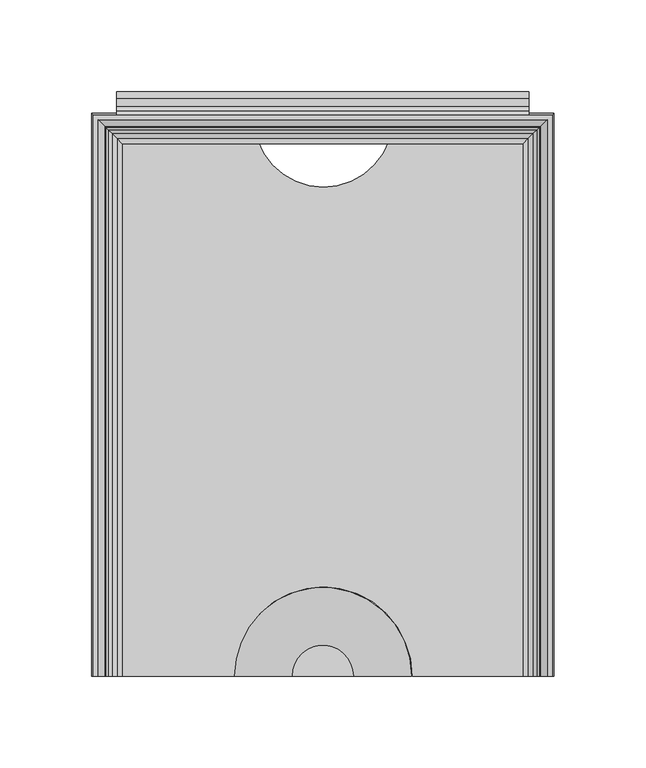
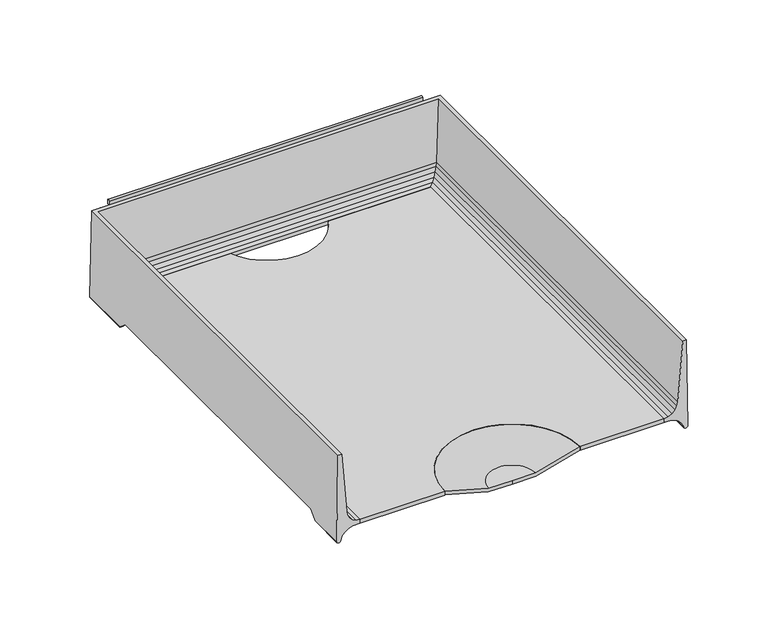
"""IFC4 building model written with IfcOpenShell, lengths in millimetres: furniture geometry."""

from ifc_helpers import new_model, si_unit, point, frame, frame_2d, origin, place, context, project, spatial, polyline, circle_curve, ellipse_curve, trimmed, segment, composite_curve, outline, extrude, source, transform, mapped, element, save
from ifc_brep_helpers import plane_surface, cylinder_surface, revolved_surface, advanced_brep


def furniture_3ab3b130(model_context):
    return source(origin(), model_context, "Body", "SolidModel", [
        advanced_brep(
        [(126.0820502, -154.0206082, 864.8757489), (125.1325529, -154.0206082, 930.2751914), (122.4547921, -154.0206082, 930.2751914), (118.8379747, -154.0206082, 885.4881003), (118.4123648, -154.0206082, 882.7546052), (117.0774354, -154.0206082, 880.0535664), (114.9656457, -154.0206082, 877.9046015), (112.28832, -154.0206082, 876.5227261), (109.3133381, -154.0206082, 876.0462052), (109.3133381, -154.0206082, 873.2240971), (114.5666739, -154.0206082, 873.0310987), (117.605351, -154.0206082, 871.9747218), (120.2416, -154.0206082, 870.1308822), (122.2762142, -154.0206082, 867.6389079), (123.1625518, -154.0206082, 864.5956655), (126.0820502, -127.6379698, 864.8757489), (126.0026181, -121.5231874, 870.346872), (126.0026181, 109.0611937, 870.346872), (126.0820502, 115.1759816, 864.8757489), (126.0820502, 153.036442, 864.8757489), (125.1325529, 152.0869447, 930.2751914), (-125.1325529, 152.0869447, 930.2751914), (-125.1325529, -154.0206082, 930.2751914), (-122.4547921, -154.0206082, 930.2751914), (-122.4547921, 149.4091839, 930.2751914), (122.4547921, 149.4091839, 930.2751914), (118.8379747, 145.7923665, 885.4881003), (118.4123648, 145.3667566, 882.7546052), (117.0774354, 144.0318272, 880.0535664), (114.9656457, 141.9200375, 877.9046015), (112.28832, 139.2427118, 876.5227261), (109.3133381, 136.2677299, 876.0462052), (109.3133381, 136.2677299, 873.2240971), (114.5666739, 141.5210656, 873.0310987), (117.605351, 144.5597428, 871.9747218), (120.2416, 147.1959918, 870.1308822), (120.2416, 109.3025941, 870.1308822), (119.9327864, 109.0611937, 870.346872), (119.9327864, -121.5231874, 870.346872), (120.2416, -121.7645876, 870.1308822), (122.2762142, -124.5497344, 867.6389079), (122.2762142, 149.230606, 867.6389079), (122.2762142, 112.0877435, 867.6389079), (123.1625518, -127.9510041, 864.5956655), (123.1625518, 150.1169436, 864.5956655), (123.1625518, 115.4890162, 864.5956655), (-126.0820502, 153.036442, 864.8757489), (-118.8379747, 145.7923665, 885.4881003), (-118.4123648, 145.3667566, 882.7546052), (-117.0774354, 144.0318272, 880.0535664), (-114.9656457, 141.9200375, 877.9046015), (-112.28832, 139.2427118, 876.5227261), (-109.3133381, 136.2677299, 876.0462052), (-109.3133381, 136.2677299, 873.2240971), (-114.5666739, 141.5210656, 873.0310987), (-117.605351, 144.5597428, 871.9747218), (-120.2416, 147.1959918, 870.1308822), (-122.2762142, 149.230606, 867.6389079), (-123.1625518, 150.1169436, 864.5956655), (-126.0820502, -154.0206082, 864.8757489), (-123.1625518, -154.0206082, 864.5956655), (-122.2762142, -154.0206082, 867.6389079), (-120.2416, -154.0206082, 870.1308822), (-117.605351, -154.0206082, 871.9747218), (-114.5666739, -154.0206082, 873.0310987), (-109.3133381, -154.0206082, 873.2240971), (-109.3133381, -154.0206082, 876.0462052), (-112.28832, -154.0206082, 876.5227261), (-114.9656457, -154.0206082, 877.9046015), (-117.0774354, -154.0206082, 880.0535664), (-118.4123648, -154.0206082, 882.7546052), (-118.8379747, -154.0206082, 885.4881003), (-126.0820502, 115.1759816, 864.8757489), (-126.0026181, 109.0611937, 870.346872), (-126.0026181, -121.5231874, 870.346872), (-126.0820502, -127.6379698, 864.8757489), (-120.2416, -121.7645876, 870.1308822), (-119.9327864, -121.5231874, 870.346872), (-119.9327864, 109.0611937, 870.346872), (-120.2416, 109.3025941, 870.1308822), (-122.2762142, 112.0877435, 867.6389079), (-122.2762142, -124.5497344, 867.6389079), (-123.1625518, 115.4890162, 864.5956655), (-123.1625518, -127.9510041, 864.5956655)],
        [
            (0, 1),
            (1, 2),
            (2, 3),
            (3, 4),
            (4, 5),
            (5, 6),
            (6, 7),
            (7, 8),
            (8, 9),
            (9, 10),
            (10, 11),
            (11, 12),
            (12, 13),
            (13, 14),
            (14, 0, circle_curve(frame((124.5859452, -154.0206082, 865.1146685), z_axis=(0.0, -1.0, 0.0), x_axis=(-1.0, 0.0, 0.0)), 1.515062)),
            (0, 15),
            (15, 16),
            (16, 17),
            (17, 18),
            (18, 19),
            (19, 20),
            (20, 1),
            (20, 21),
            (21, 22),
            (22, 23),
            (23, 24),
            (24, 25),
            (25, 2),
            (25, 26),
            (26, 3),
            (26, 27),
            (27, 4),
            (27, 28),
            (28, 5),
            (28, 29),
            (29, 6),
            (29, 30),
            (30, 7),
            (30, 31),
            (31, 8),
            (31, 32),
            (32, 9),
            (32, 33),
            (33, 10),
            (33, 34),
            (34, 11),
            (34, 35),
            (35, 36),
            (36, 37),
            (37, 38),
            (38, 39),
            (39, 12),
            (39, 40),
            (40, 13),
            (35, 41),
            (41, 42),
            (42, 36),
            (40, 43),
            (43, 14),
            (41, 44),
            (44, 45),
            (45, 42),
            (43, 15, ellipse_curve(frame((124.5859452, -127.3709422, 865.1146685), z_axis=(0.0, -0.6667949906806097, 0.7452411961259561), x_axis=(0.0, -0.7452411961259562, -0.6667949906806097)), 2.2721556, 1.515062)),
            (44, 19, ellipse_curve(frame((124.5859452, 151.540337, 865.1146685), z_axis=(0.7071067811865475, -0.7071067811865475, 0.0), x_axis=(-0.7071067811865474, -0.7071067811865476, 0.0)), 2.1426212, 1.515062)),
            (18, 45, ellipse_curve(frame((124.5859452, 114.9089538, 865.1146685), z_axis=(0.0, 0.6667946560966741, 0.7452414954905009), x_axis=(0.0, -0.7452414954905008, 0.6667946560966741)), 2.2721567, 1.515062)),
            (19, 46),
            (46, 21),
            (24, 47),
            (47, 26),
            (47, 48),
            (48, 27),
            (48, 49),
            (49, 28),
            (49, 50),
            (50, 29),
            (50, 51),
            (51, 30),
            (51, 52),
            (52, 31),
            (52, 53),
            (53, 32),
            (53, 54),
            (54, 33),
            (54, 55),
            (55, 34),
            (55, 56),
            (56, 35),
            (56, 57),
            (57, 41),
            (57, 58),
            (58, 44),
            (58, 46, ellipse_curve(frame((-124.5859452, 151.540337, 865.1146685), z_axis=(0.7071067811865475, 0.7071067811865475, 0.0), x_axis=(0.7071067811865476, -0.7071067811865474, 0.0)), 2.1426212, 1.515062)),
            (22, 59),
            (59, 60, circle_curve(frame((-124.5859452, -154.0206082, 865.1146685), z_axis=(0.0, -1.0, 0.0), x_axis=(1.0, 0.0, 0.0)), 1.515062)),
            (60, 61),
            (61, 62),
            (62, 63),
            (63, 64),
            (64, 65),
            (65, 66),
            (66, 67),
            (67, 68),
            (68, 69),
            (69, 70),
            (70, 71),
            (71, 23),
            (46, 72),
            (72, 73),
            (73, 74),
            (74, 75),
            (75, 59),
            (71, 47),
            (70, 48),
            (69, 49),
            (68, 50),
            (67, 51),
            (66, 52),
            (65, 53),
            (64, 54),
            (63, 55),
            (62, 76),
            (76, 77),
            (77, 78),
            (78, 79),
            (79, 56),
            (79, 80),
            (80, 57),
            (61, 81),
            (81, 76),
            (80, 82),
            (82, 58),
            (60, 83),
            (83, 81),
            (82, 72, ellipse_curve(frame((-124.5859452, 114.9089538, 865.1146685), z_axis=(0.0, 0.6667946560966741, 0.7452414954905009), x_axis=(0.0, 0.7452414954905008, -0.6667946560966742)), 2.2721567, 1.515062)),
            (75, 83, ellipse_curve(frame((-124.5859452, -127.3709422, 865.1146685), z_axis=(0.0, -0.6667949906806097, 0.7452411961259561), x_axis=(0.0, 0.745241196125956, 0.6667949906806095)), 2.2721556, 1.515062)),
            (38, 16),
            (74, 77),
            (37, 17),
            (73, 78),
        ],
        [
            plane_surface(frame((127.0, -154.0206082, 863.6), z_axis=(0.0, -1.0, 0.0), x_axis=(0.0, 0.0, 1.0))),
            plane_surface(frame((126.0820502, -154.0206082, 864.8757489), z_axis=(0.9998946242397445, 0.0, 0.014516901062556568), x_axis=(0.0, 1.0, 0.0))),
            plane_surface(frame((125.1325529, -154.0206082, 930.2751914), z_axis=(0.0, 0.0, 1.0), x_axis=(0.0, 1.0, 0.0))),
            plane_surface(frame((122.4547921, -154.0206082, 930.2751914), z_axis=(-0.9967551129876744, 0.0, 0.08049375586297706), x_axis=(0.0, 1.0, 0.0))),
            plane_surface(frame((118.8379747, -154.0206082, 885.4881003), z_axis=(-0.9880945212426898, 0.0, 0.15384803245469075), x_axis=(0.0, 1.0, 0.0))),
            plane_surface(frame((118.4123648, -154.0206082, 882.7546052), z_axis=(-0.8964873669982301, 0.0, 0.44306929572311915), x_axis=(0.0, 1.0, 0.0))),
            plane_surface(frame((117.0774354, -154.0206082, 880.0535664), z_axis=(-0.7132491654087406, 0.0, 0.7009105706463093), x_axis=(0.0, 1.0, 0.0))),
            plane_surface(frame((114.9656457, -154.0206082, 877.9046015), z_axis=(-0.45865074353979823, 0.0, 0.8886166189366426), x_axis=(0.0, 1.0, 0.0))),
            plane_surface(frame((112.28832, -154.0206082, 876.5227261), z_axis=(-0.15816001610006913, 0.0, 0.987413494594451), x_axis=(0.0, 1.0, 0.0))),
            plane_surface(frame((109.3133381, -154.0206082, 876.0462052), z_axis=(-1.0, 0.0, 0.0), x_axis=(0.0, 1.0, 0.0))),
            plane_surface(frame((109.3133381, -154.0206082, 873.2240971), z_axis=(-0.036713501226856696, 0.0, -0.9993258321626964), x_axis=(0.0, 1.0, 0.0))),
            plane_surface(frame((114.5666739, -154.0206082, 873.0310987), z_axis=(-0.3283669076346, 0.0, -0.9445502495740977), x_axis=(0.0, 1.0, 0.0))),
            plane_surface(frame((117.605351, -154.0206082, 871.9747218), z_axis=(-0.5731421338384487, 0.0, -0.819455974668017), x_axis=(0.0, 1.0, 0.0))),
            plane_surface(frame((120.2416, -154.0206082, 870.1308822), z_axis=(-0.77460799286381, 0.0, -0.6324416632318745), x_axis=(0.0, 1.0, 0.0))),
            plane_surface(frame((122.2762142, -154.0206082, 867.6389079), z_axis=(-0.9601080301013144, 0.0, -0.2796293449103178), x_axis=(0.0, 1.0, 0.0))),
            cylinder_surface(frame((124.5859452, -154.0206082, 865.1146685), z_axis=(0.0, -1.0, 0.0), x_axis=(-1.0, 0.0, 0.0)), 1.515062),
            plane_surface(frame((126.0820502, 153.036442, 864.8757489), z_axis=(0.0, 0.9998946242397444, 0.014516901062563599), x_axis=(-1.0, 0.0, 0.0))),
            plane_surface(frame((122.4547921, 149.4091839, 930.2751914), z_axis=(0.0, -0.9967551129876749, 0.08049375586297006), x_axis=(-1.0, 0.0, 0.0))),
            plane_surface(frame((118.8379747, 145.7923665, 885.4881003), z_axis=(0.0, -0.9880945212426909, 0.15384803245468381), x_axis=(-1.0, 0.0, 0.0))),
            plane_surface(frame((118.4123648, 145.3667566, 882.7546052), z_axis=(0.0, -0.8964873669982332, 0.4430692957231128), x_axis=(-1.0, 0.0, 0.0))),
            plane_surface(frame((117.0774354, 144.0318272, 880.0535664), z_axis=(0.0, -0.7132491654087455, 0.7009105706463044), x_axis=(-1.0, 0.0, 0.0))),
            plane_surface(frame((114.9656457, 141.9200375, 877.9046015), z_axis=(0.0, -0.4586507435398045, 0.8886166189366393), x_axis=(-1.0, 0.0, 0.0))),
            plane_surface(frame((112.28832, 139.2427118, 876.5227261), z_axis=(0.0, -0.15816001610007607, 0.9874134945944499), x_axis=(-1.0, 0.0, 0.0))),
            plane_surface(frame((109.3133381, 136.2677299, 876.0462052), z_axis=(0.0, -1.0, 0.0), x_axis=(-1.0, 0.0, 0.0))),
            plane_surface(frame((109.3133381, 136.2677299, 873.2240971), z_axis=(0.0, -0.03671350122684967, -0.9993258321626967), x_axis=(-1.0, 0.0, 0.0))),
            plane_surface(frame((114.5666739, 141.5210656, 873.0310987), z_axis=(0.0, -0.32836690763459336, -0.9445502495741), x_axis=(-1.0, 0.0, 0.0))),
            plane_surface(frame((117.605351, 144.5597428, 871.9747218), z_axis=(0.0, -0.5731421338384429, -0.819455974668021), x_axis=(-1.0, 0.0, 0.0))),
            plane_surface(frame((120.2416, 147.1959918, 870.1308822), z_axis=(0.0, -0.7746079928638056, -0.6324416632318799), x_axis=(-1.0, 0.0, 0.0))),
            plane_surface(frame((122.2762142, 149.230606, 867.6389079), z_axis=(0.0, -0.9601080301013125, -0.27962934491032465), x_axis=(-1.0, 0.0, 0.0))),
            cylinder_surface(frame((127.0, 151.540337, 865.1146685), z_axis=(1.0, 0.0, 0.0), x_axis=(0.0, -1.0, 0.0)), 1.515062),
            plane_surface(frame((-127.0, -154.0206082, 863.6), z_axis=(0.0, -1.0, 0.0), x_axis=(0.0, 0.0, 1.0))),
            plane_surface(frame((-126.0820502, 153.036442, 864.8757489), z_axis=(-0.9998946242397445, 0.0, 0.014516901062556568), x_axis=(0.0, -1.0, 0.0))),
            plane_surface(frame((-122.4547921, 149.4091839, 930.2751914), z_axis=(0.9967551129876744, 0.0, 0.08049375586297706), x_axis=(0.0, -1.0, 0.0))),
            plane_surface(frame((-118.8379747, 145.7923665, 885.4881003), z_axis=(0.9880945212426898, 0.0, 0.15384803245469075), x_axis=(0.0, -1.0, 0.0))),
            plane_surface(frame((-118.4123648, 145.3667566, 882.7546052), z_axis=(0.8964873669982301, 0.0, 0.44306929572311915), x_axis=(0.0, -1.0, 0.0))),
            plane_surface(frame((-117.0774354, 144.0318272, 880.0535664), z_axis=(0.7132491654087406, 0.0, 0.7009105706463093), x_axis=(0.0, -1.0, 0.0))),
            plane_surface(frame((-114.9656457, 141.9200375, 877.9046015), z_axis=(0.45865074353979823, 0.0, 0.8886166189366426), x_axis=(0.0, -1.0, 0.0))),
            plane_surface(frame((-112.28832, 139.2427118, 876.5227261), z_axis=(0.15816001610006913, 0.0, 0.987413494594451), x_axis=(0.0, -1.0, 0.0))),
            plane_surface(frame((-109.3133381, 136.2677299, 876.0462052), z_axis=(1.0, 0.0, 0.0), x_axis=(0.0, -1.0, 0.0))),
            plane_surface(frame((-109.3133381, 136.2677299, 873.2240971), z_axis=(0.036713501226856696, 0.0, -0.9993258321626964), x_axis=(0.0, -1.0, 0.0))),
            plane_surface(frame((-114.5666739, 141.5210656, 873.0310987), z_axis=(0.3283669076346, 0.0, -0.9445502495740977), x_axis=(0.0, -1.0, 0.0))),
            plane_surface(frame((-117.605351, 144.5597428, 871.9747218), z_axis=(0.5731421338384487, 0.0, -0.819455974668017), x_axis=(0.0, -1.0, 0.0))),
            plane_surface(frame((-120.2416, 147.1959918, 870.1308822), z_axis=(0.77460799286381, 0.0, -0.6324416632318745), x_axis=(0.0, -1.0, 0.0))),
            plane_surface(frame((-122.2762142, 149.230606, 867.6389079), z_axis=(0.9601080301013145, 0.0, -0.2796293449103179), x_axis=(0.0, -1.0, 0.0))),
            cylinder_surface(frame((-124.5859452, 153.9543918, 865.1146685), z_axis=(0.0, 1.0, 0.0), x_axis=(1.0, 0.0, 0.0)), 1.515062),
            plane_surface(frame((-127.0, -130.1695728, 862.6106296), z_axis=(0.0, 0.6667949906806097, -0.7452411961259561), x_axis=(1.0, 0.0, 0.0))),
            plane_surface(frame((-127.0, -121.5231874, 870.346872), z_axis=(0.0, 0.0, -1.0), x_axis=(1.0, 0.0, 0.0))),
            plane_surface(frame((-127.0, 109.0611937, 870.346872), z_axis=(0.0, -0.6667946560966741, -0.7452414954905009), x_axis=(1.0, 0.0, 0.0))),
        ],
        [
            (0, [[1, 2, 3, 4, 5, 6, 7, 8, 9, 10, 11, 12, 13, 14, 15]]),
            (1, [[-1, 16, 17, 18, 19, 20, 21, 22]]),
            (2, [[-2, -22, 23, 24, 25, 26, 27, 28]]),
            (3, [[-3, -28, 29, 30]]),
            (4, [[-4, -30, 31, 32]]),
            (5, [[-5, -32, 33, 34]]),
            (6, [[-6, -34, 35, 36]]),
            (7, [[-7, -36, 37, 38]]),
            (8, [[-8, -38, 39, 40]]),
            (9, [[-9, -40, 41, 42]]),
            (10, [[-10, -42, 43, 44]]),
            (11, [[-11, -44, 45, 46]]),
            (12, [[-12, -46, 47, 48, 49, 50, 51, 52]]),
            (13, [[-13, -52, 53, 54]]),
            (13, [[55, 56, 57, -48]]),
            (14, [[-14, -54, 58, 59]]),
            (14, [[60, 61, 62, -56]]),
            (15, [[-15, -59, 63, -16]]),
            (15, [[64, -20, 65, -61]]),
            (16, [[-21, 66, 67, -23]]),
            (17, [[-27, 68, 69, -29]]),
            (18, [[-31, -69, 70, 71]]),
            (19, [[-33, -71, 72, 73]]),
            (20, [[-35, -73, 74, 75]]),
            (21, [[-37, -75, 76, 77]]),
            (22, [[-39, -77, 78, 79]]),
            (23, [[-41, -79, 80, 81]]),
            (24, [[-43, -81, 82, 83]]),
            (25, [[-45, -83, 84, 85]]),
            (26, [[-47, -85, 86, 87]]),
            (27, [[-55, -87, 88, 89]]),
            (28, [[-60, -89, 90, 91]]),
            (29, [[-64, -91, 92, -66]]),
            (30, [[-25, 93, 94, 95, 96, 97, 98, 99, 100, 101, 102, 103, 104, 105, 106]]),
            (31, [[-24, -67, 107, 108, 109, 110, 111, -93]]),
            (32, [[-26, -106, 112, -68]]),
            (33, [[-70, -112, -105, 113]]),
            (34, [[-72, -113, -104, 114]]),
            (35, [[-74, -114, -103, 115]]),
            (36, [[-76, -115, -102, 116]]),
            (37, [[-78, -116, -101, 117]]),
            (38, [[-80, -117, -100, 118]]),
            (39, [[-82, -118, -99, 119]]),
            (40, [[-84, -119, -98, 120]]),
            (41, [[-86, -120, -97, 121, 122, 123, 124, 125]]),
            (42, [[-88, -125, 126, 127]]),
            (42, [[-96, 128, 129, -121]]),
            (43, [[-90, -127, 130, 131]]),
            (43, [[-95, 132, 133, -128]]),
            (44, [[-92, -131, 134, -107]]),
            (44, [[-94, -111, 135, -132]]),
            (45, [[136, -17, -63, -58, -53, -51]]),
            (45, [[137, -122, -129, -133, -135, -110]]),
            (46, [[-136, -50, 138, -18]]),
            (46, [[-137, -109, 139, -123]]),
            (47, [[-138, -49, -57, -62, -65, -19]]),
            (47, [[-139, -108, -134, -130, -126, -124]]),
        ],
    ),
        extrude(outline(composite_curve([segment(polyline([(-109.3647805, 138.2769393), (-35.6610422, 138.2769393)]), True, "CONTINUOUS"), segment(trimmed(circle_curve(frame_2d((0.3369133, 150.6584166)), 38.0677525), [point((-35.6610422, 138.2769393))], [point((36.3348688, 138.2769393))], True, "CARTESIAN"), True, "CONTINUOUS"), segment(polyline([(36.3348688, 138.2769393), (109.6504969, 138.2769393), (109.6504969, -153.9875), (48.9112184, -153.9875)]), True, "CONTINUOUS"), segment(trimmed(circle_curve(frame_2d((0.2842795, -153.9323196)), 48.6269702), [point((48.9112184, -153.9875))], [point((-48.3426595, -153.9875))], True, "CARTESIAN"), True, "CONTINUOUS"), segment(polyline([(-48.3426595, -153.9875), (-109.3647805, -153.9875), (-109.3647805, 138.2769393)]), True, "CONTINUOUS")], self_intersect=False)), frame((0.0, 0.0, 873.2064677), z_axis=(0.0, 0.0, 1.0), x_axis=(1.0, 0.0, 0.0)), (0.0, 0.0, 1.0), 2.8395461),
        extrude(outline(composite_curve([segment(trimmed(circle_curve(frame_2d((162.7186949, 914.4457343)), 1.9049988), [point((164.6236937, 914.4457343))], [point((160.8136962, 914.4457343))], False, "CARTESIAN"), True, "CONTINUOUS"), segment(polyline([(160.8136962, 914.4457343), (160.8136962, 917.8747311), (160.0516969, 918.6367303), (156.4380325, 918.6367303), (152.1427596, 916.2893331), (152.1427596, 924.7941285), (156.4380325, 922.4467312), (160.8136928, 922.4467312)]), True, "CONTINUOUS"), segment(trimmed(circle_curve(frame_2d((160.8136928, 918.6367303)), 3.8100009), [point((160.8136928, 922.4467312))], [point((164.6236937, 918.6367303))], False, "CARTESIAN"), True, "CONTINUOUS"), segment(polyline([(164.6236937, 918.6367303), (164.6236937, 914.4457343)]), True, "CONTINUOUS")], self_intersect=False)), frame((-112.5397809, 0.0, 0.0), z_axis=(1.0, 0.0, 0.0), x_axis=(0.0, 1.0, 0.0)), (0.0, 0.0, 1.0), 225.0795617),
        advanced_brep(
        [(-16.8929028, -153.9875, 867.171875), (-48.4614622, -153.9875, 876.0795432), (-48.4614622, -153.9875, 873.4880018), (-16.9249292, -153.9875, 864.5893704), (0.0, -153.9875, 864.5893704), (0.0, -153.9875, 867.171875), (16.8929028, -153.9875, 867.171875), (16.9249292, -153.9875, 864.5893704), (48.4614622, -153.9875, 873.4880018), (48.4614622, -153.9875, 876.0795432)],
        [
            (0, 1),
            (1, 2),
            (2, 3),
            (3, 4),
            (4, 5),
            (5, 0),
            (6, 5),
            (4, 7),
            (7, 8),
            (8, 9),
            (9, 6),
            (9, 1, circle_curve(frame((0.0, -153.9875, 876.0795432), z_axis=(0.0, 0.0, 1.0), x_axis=(-1.0, 0.0, 0.0)), 48.4614622)),
            (0, 6, circle_curve(frame((0.0, -153.9875, 867.171875), z_axis=(0.0, 0.0, -1.0), x_axis=(-1.0, 0.0, 0.0)), 16.8929028)),
            (8, 2, circle_curve(frame((0.0, -153.9875, 873.4880018), z_axis=(0.0, 0.0, 1.0), x_axis=(-1.0, 0.0, 0.0)), 48.4614622)),
            (7, 3, circle_curve(frame((0.0, -153.9875, 864.5893704), z_axis=(0.0, 0.0, 1.0), x_axis=(-1.0, 0.0, 0.0)), 16.9249292)),
        ],
        [
            plane_surface(frame((0.0, -153.9875, 863.6), z_axis=(0.0, -1.0, 0.0), x_axis=(-1.0, 0.0, 0.0))),
            plane_surface(frame((0.0, -153.9875, 863.6), z_axis=(0.0, -1.0, 0.0), x_axis=(1.0, 0.0, 0.0))),
            revolved_surface(polyline([(-48.4614622, -153.9875, 876.0795432), (-16.8929028, -153.9875, 867.171875)]), (0.0, -153.9875, 863.6), (0.0, 0.0, 1.0)),
            cylinder_surface(frame((0.0, -153.9875, 863.6), z_axis=(0.0, 0.0, 1.0), x_axis=(-1.0, 0.0, 0.0)), 48.4614622),
            revolved_surface(polyline([(-16.9249292, -153.9875, 864.5893704), (-48.4614622, -153.9875, 873.4880018)]), (0.0, -153.9875, 863.6), (0.0, 0.0, 1.0)),
            plane_surface(frame((0.0, -153.9875, 864.5893704), z_axis=(0.0, 0.0, -1.0), x_axis=(-1.0, 0.0, 0.0))),
            plane_surface(frame((0.0, -153.9875, 867.171875), z_axis=(0.0, 0.0, 1.0), x_axis=(-1.0, 0.0, 0.0))),
        ],
        [
            (0, [[1, 2, 3, 4, 5, 6]]),
            (1, [[7, -5, 8, 9, 10, 11]]),
            (2, [[12, -1, 13, -11]]),
            (3, [[14, -2, -12, -10]]),
            (4, [[15, -3, -14, -9]]),
            (5, [[-4, -15, -8]]),
            (6, [[-13, -6, -7]]),
        ],
    ),
        extrude(outline(composite_curve([segment(polyline([(153.9875, 930.275), (152.1427596, 930.275), (152.1427596, 933.1065333)]), True, "CONTINUOUS"), segment(trimmed(circle_curve(frame_2d((153.0651298, 932.8012665)), 0.9715733), [point((152.1427596, 933.1065333))], [point((153.9875, 933.1065333))], False, "CARTESIAN"), True, "CONTINUOUS"), segment(polyline([(153.9875, 933.1065333), (153.9875, 930.275)]), True, "CONTINUOUS")], self_intersect=False)), frame((-112.5397809, 0.0, 0.0), z_axis=(1.0, 0.0, 0.0), x_axis=(0.0, 1.0, 0.0)), (0.0, 0.0, 1.0), 225.0795617),
    ])


if __name__ == "__main__":
    model = new_model("IFC4")
    model_context = context("Model", 3, world=origin())
    ifc_project = project(units=[si_unit("LENGTHUNIT", "METRE", prefix="MILLI")], contexts=[model_context])
    site = spatial("IfcSite", under=ifc_project)
    building = spatial("IfcBuilding", under=site)
    placement = place(None, origin())
    furniture_shape = furniture_3ab3b130(model_context)
    element("IfcFurniture", 1, ObjectType="HermanMiller_ThrivePortfolio_Y7216_PaperTray : 3\"H x 12\"D x 10\"W", at=placement, inside=building, context=model_context, shape_type="MappedRepresentation", body=[
        mapped(furniture_shape, transform((0.0, 0.0, 0.0), x_axis=(1.0, 0.0, 0.0), y_axis=(0.0, 1.0, 0.0), z_axis=(0.0, 0.0, 1.0))),
    ])
    save(model, "model.ifc")
